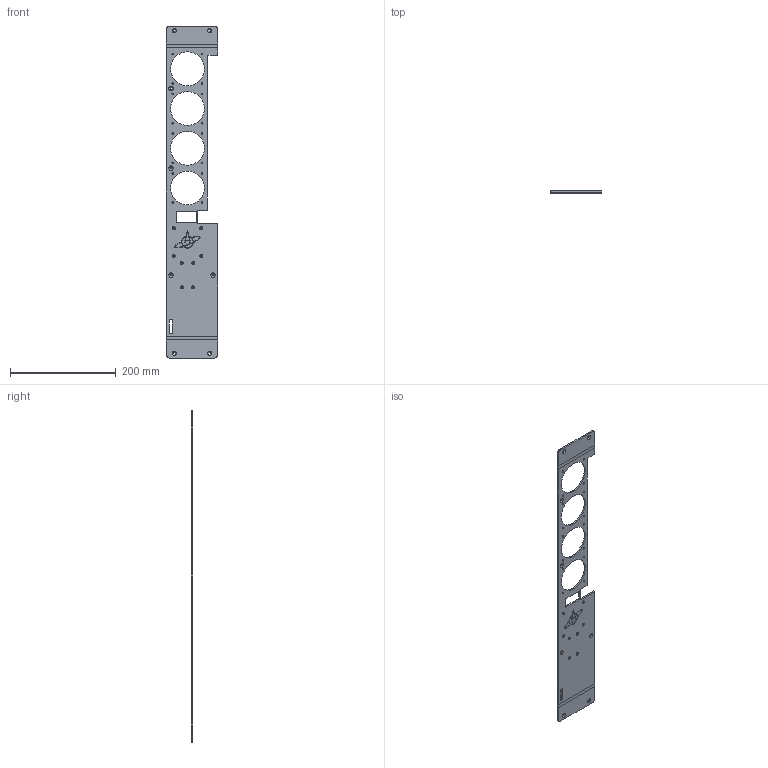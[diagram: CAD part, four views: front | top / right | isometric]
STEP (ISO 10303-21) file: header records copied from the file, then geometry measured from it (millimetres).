
FILE_DESCRIPTION(/* description */ (''),/* implementation_level */ '2;1');
FILE_NAME(/* name */ 'C:/Users/anton/Documents/Kerbal Space Program/Kerbal_Control_Panel/KCP2/CAD/STEPs/GaugeTower_FrontPlate_v16_FlatPattern.step',/* time_stamp */ '2020-11-12T08:32:23-08:00',/* author */ (''),/* organization */ (''),/* preprocessor_version */ 'ST-DEVELOPER v18.1',/* originating_system */ 'Autodesk Translation Framework v9.3.0.1241',/* authorisation */ '');
FILE_SCHEMA (('AUTOMOTIVE_DESIGN { 1 0 10303 214 3 1 1 }'));
Length unit declared in the file: millimetre
Products named in the file (1): Front Plate
Bounding box: 97 x 3.02 x 626.57 mm (x, y, z)
Volume: 119748.1 mm3; surface area: 88885.4 mm2
Topology: 2 solids, 2 shells, 131 faces, 349 edges, 222 vertices
Faces by surface type: cylinder 64, plane 44, cone 16, bspline 7
Full cylindrical faces by diameter (mm): 3 x16, 3.264 x8, 4.496 x8, 64 x4
Entity records: 4671 total; most frequent: CARTESIAN_POINT 1058, DIRECTION 729, ORIENTED_EDGE 698, EDGE_CURVE 349, AXIS2_PLACEMENT_3D 269, VERTEX_POINT 222, EDGE_LOOP 217, LINE 191
